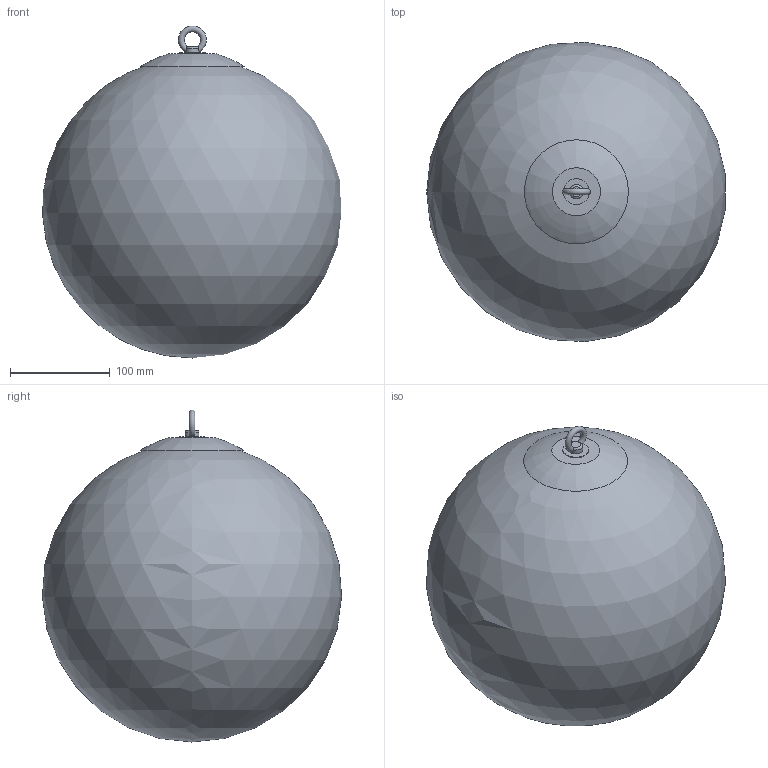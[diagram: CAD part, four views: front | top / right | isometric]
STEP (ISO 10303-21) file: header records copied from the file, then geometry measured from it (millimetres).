
FILE_DESCRIPTION(/* description */ (''),/* implementation_level */ '2;1');
FILE_NAME(/* name */ 'C:/Users/LukasGröber/GMS Cloud/Groeber Mannheim Lichtwerke - Dokumente/Marketing/Produkte/3D Daten/Snowball Pendel Außen/Snowball 30 Pendel Außen.step',/* time_stamp */ '2022-07-07T17:46:47+02:00',/* author */ (''),/* organization */ (''),/* preprocessor_version */ 'ST-DEVELOPER v19',/* originating_system */ 'Autodesk Translation Framework v11.7.0.108',/* authorisation */ '');
FILE_SCHEMA (('AUTOMOTIVE_DESIGN { 1 0 10303 214 3 1 1 }'));
Length unit declared in the file: millimetre
Products named in the file (5): Snowball 30 Pendel Außen; Ring für Pendel Außen Modell; Snowball 30 Mobil; Gummifuß (Modell); Snowball 300 Öffnung 80
Assembly tree (4 placements, depth 3):
  Snowball 30 Pendel Außen
    Ring für Pendel Außen Modell
    Snowball 30 Mobil
      Gummifuß (Modell)
      Snowball 300 Öffnung 80
Bounding box: 298.69 x 299.36 x 332.12 mm (x, y, z)
Volume: 1049475.2 mm3; surface area: 570401.6 mm2
Topology: 3 solids, 3 shells, 32 faces, 82 edges, 56 vertices
Faces by surface type: plane 17, cylinder 7, torus 3, cone 2, sphere 2, bspline 1
Full cylindrical faces by diameter (mm): 14 x1, 26 x1, 80 x1, 82.828 x1
Entity records: 1311 total; most frequent: CARTESIAN_POINT 406, DIRECTION 172, ORIENTED_EDGE 160, EDGE_CURVE 80, AXIS2_PLACEMENT_3D 74, VERTEX_POINT 56, EDGE_LOOP 36, CIRCLE 34
